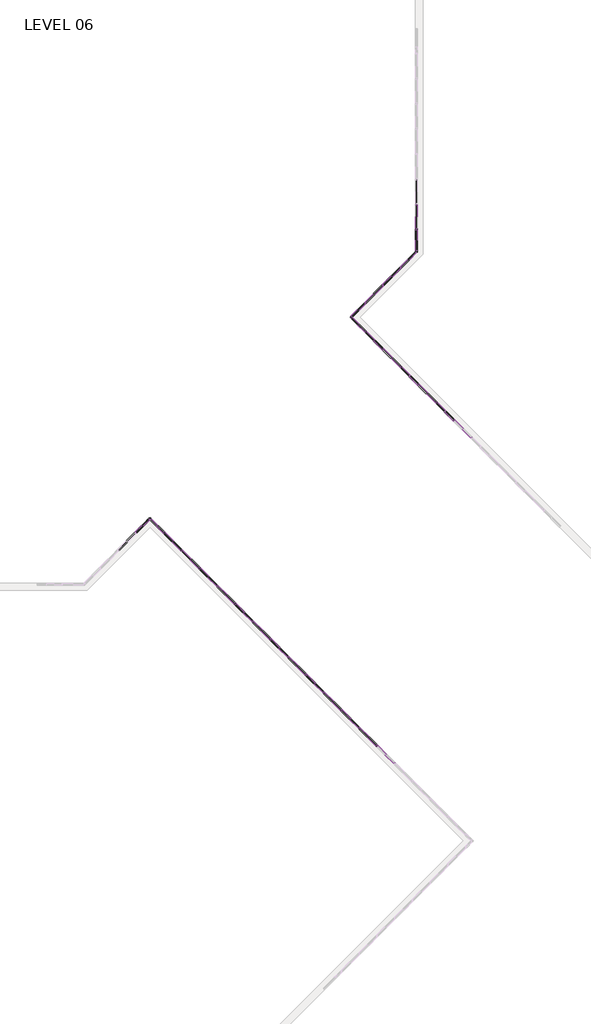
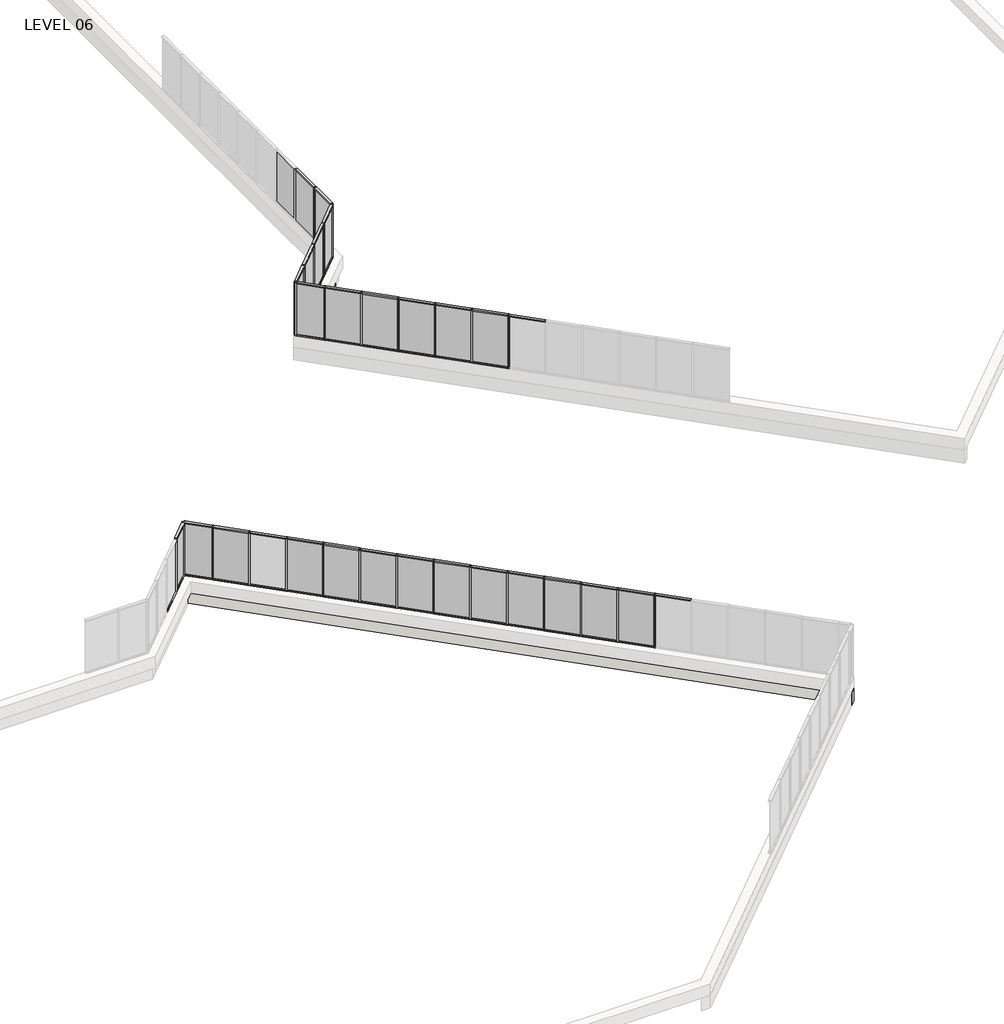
# One storey, part 9 of 17: 84 members, 26 plates, 2 walls.
"""IFC4 building model written with IfcOpenShell, lengths in millimetres."""

from ifc_helpers import new_model, si_unit, frame, origin, place, context, project, spatial, polyline, outline, extrude, faceted_brep, transform, mapped, element, save
from components import member_5247f267, member_e44af9ab, member_800970d4, member_910c08c9, member_dd9f6d43, member_45eb7f2e, plate_67294edd, plate_88df3e37, plate_c3b8b83d, plate_6ecefdb5, plate_9c66726c, plate_129ab9d0

model = new_model("IFC4")

# Units and contexts
model_context = context("Model", 3, world=origin())
ifc_project = project(units=[si_unit("LENGTHUNIT", "METRE", prefix="MILLI")], contexts=[model_context])

# Site, building, storey
site = spatial("IfcSite", under=ifc_project)
building = spatial("IfcBuilding", under=site)
storey = spatial("IfcBuildingStorey", under=building, Name="LEVEL 06", Elevation=19596.1)

# Members
placement = place(None, origin())
member_shape = member_5247f267(model_context)
element("IfcMember", 1, ObjectType="Rectangular Mullion : 2\" x 4.5\" rectangular", at=placement, inside=storey, context=model_context, shape_type="MappedRepresentation", body=[
    mapped(member_shape, transform((58839.186821, 16282.6021867, 19596.1), x_axis=(0.0, 0.0, -1.0), y_axis=(0.707106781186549, 0.7071067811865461, 0.0), z_axis=(0.707106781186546, -0.7071067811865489, 0.0))),
])
element("IfcMember", 2, ObjectType="Rectangular Mullion : 2\" x 4.5\" rectangular", at=placement, inside=storey, context=model_context, shape_type="MappedRepresentation", body=[
    mapped(member_shape, transform((57761.5560865, 17360.2329212, 19596.1), x_axis=(0.0, 0.0, -1.0), y_axis=(0.707106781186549, 0.7071067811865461, 0.0), z_axis=(0.7071067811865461, -0.707106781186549, 0.0))),
])
element("IfcMember", 3, ObjectType="Rectangular Mullion : 2\" x 4.5\" rectangular", at=placement, inside=storey, context=model_context, shape_type="MappedRepresentation", body=[
    mapped(member_shape, transform((56683.925352, 18437.8636558, 19596.1), x_axis=(0.0, 0.0, -1.0), y_axis=(0.707106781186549, 0.7071067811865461, 0.0), z_axis=(0.707106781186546, -0.7071067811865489, 0.0))),
])
element("IfcMember", 4, ObjectType="Rectangular Mullion : 2\" x 4.5\" rectangular", at=placement, inside=storey, context=model_context, shape_type="MappedRepresentation", body=[
    mapped(member_shape, transform((53451.3904937, 21670.3985141, 19596.1), x_axis=(0.0, 0.0, -1.0), y_axis=(0.7071067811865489, 0.7071067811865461, 0.0), z_axis=(0.7071067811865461, -0.7071067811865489, 0.0))),
])
element("IfcMember", 5, ObjectType="Rectangular Mullion : 2\" x 4.5\" rectangular", at=placement, inside=storey, context=model_context, shape_type="MappedRepresentation", body=[
    mapped(member_shape, transform((52373.7597592, 22748.0292486, 19596.1), x_axis=(0.0, 0.0, -1.0), y_axis=(0.7071067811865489, 0.7071067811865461, 0.0), z_axis=(0.7071067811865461, -0.7071067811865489, 0.0))),
])
element("IfcMember", 6, ObjectType="Rectangular Mullion : 2\" x 4.5\" rectangular", at=placement, inside=storey, context=model_context, shape_type="MappedRepresentation", body=[
    mapped(member_shape, transform((51296.1290246, 23825.6599831, 19596.1), x_axis=(0.0, 0.0, -1.0), y_axis=(0.707106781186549, 0.7071067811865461, 0.0), z_axis=(0.707106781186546, -0.7071067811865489, 0.0))),
])
element("IfcMember", 7, ObjectType="Rectangular Mullion : 2\" x 4.5\" rectangular", at=placement, inside=storey, context=model_context, shape_type="MappedRepresentation", body=[
    mapped(member_shape, transform((50218.4982901, 24903.2907176, 19596.1), x_axis=(0.0, 0.0, -1.0), y_axis=(0.707106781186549, 0.7071067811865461, 0.0), z_axis=(0.707106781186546, -0.7071067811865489, 0.0))),
])
element("IfcMember", 8, ObjectType="Rectangular Mullion : 2\" x 4.5\" rectangular", at=placement, inside=storey, context=model_context, shape_type="MappedRepresentation", body=[
    mapped(member_shape, transform((49140.8675556, 25980.9214522, 19596.1), x_axis=(0.0, 0.0, -1.0), y_axis=(0.707106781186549, 0.7071067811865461, 0.0), z_axis=(0.7071067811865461, -0.707106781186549, 0.0))),
])
element("IfcMember", 9, ObjectType="Rectangular Mullion : 2\" x 4.5\" rectangular", at=placement, inside=storey, context=model_context, shape_type="MappedRepresentation", body=[
    mapped(member_shape, transform((48063.236821, 27058.5521867, 19596.1), x_axis=(0.0, 0.0, -1.0), y_axis=(0.7071067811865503, 0.7071067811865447, 0.0), z_axis=(0.7071067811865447, -0.7071067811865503, 0.0))),
])
element("IfcMember", 10, ObjectType="Rectangular Mullion : 2\" x 4.5\" rectangular", at=placement, inside=storey, context=model_context, shape_type="MappedRepresentation", body=[
    mapped(member_shape, transform((46985.6060865, 28136.1829212, 19596.1), x_axis=(0.0, 0.0, -1.0), y_axis=(0.7071067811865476, 0.7071067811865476, 0.0), z_axis=(0.7071067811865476, -0.7071067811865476, 0.0))),
])
element("IfcMember", 11, ObjectType="Rectangular Mullion : 2\" x 4.5\" rectangular", at=placement, inside=storey, context=model_context, shape_type="MappedRepresentation", body=[
    mapped(member_shape, transform((44188.0075145, 29177.8965222, 19596.1), x_axis=(0.0, 0.0, -1.0), y_axis=(-0.7071067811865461, 0.7071067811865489, 0.0), z_axis=(0.7071067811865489, 0.7071067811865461, 0.0))),
])
element("IfcMember", 12, ObjectType="Rectangular Mullion : 2\" x 4.5\" rectangular", at=placement, inside=storey, context=model_context, shape_type="MappedRepresentation", body=[
    mapped(member_shape, transform((58875.1078455, 16246.6811622, 22186.9), x_axis=(0.0, 0.0, 1.0), y_axis=(0.707106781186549, 0.7071067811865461, 0.0), z_axis=(-0.707106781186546, 0.7071067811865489, 0.0))),
])
element("IfcMember", 13, ObjectType="Rectangular Mullion : 2\" x 4.5\" rectangular", at=placement, inside=storey, context=model_context, shape_type="MappedRepresentation", body=[
    mapped(member_shape, transform((57797.477111, 17324.3118967, 22186.9), x_axis=(0.0, 0.0, 1.0), y_axis=(0.707106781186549, 0.7071067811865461, 0.0), z_axis=(-0.707106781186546, 0.7071067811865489, 0.0))),
])
element("IfcMember", 14, ObjectType="Rectangular Mullion : 2\" x 4.5\" rectangular", at=placement, inside=storey, context=model_context, shape_type="MappedRepresentation", body=[
    mapped(member_shape, transform((56719.8463765, 18401.9426313, 22186.9), x_axis=(0.0, 0.0, 1.0), y_axis=(0.7071067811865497, 0.7071067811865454, 0.0), z_axis=(-0.7071067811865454, 0.7071067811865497, 0.0))),
])
element("IfcMember", 15, ObjectType="Rectangular Mullion : 2\" x 4.5\" rectangular", at=placement, inside=storey, context=model_context, shape_type="MappedRepresentation", body=[
    mapped(member_shape, transform((55642.2156419, 19479.5733658, 22186.9), x_axis=(0.0, 0.0, 1.0), y_axis=(0.7071067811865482, 0.7071067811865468, 0.0), z_axis=(-0.7071067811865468, 0.7071067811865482, 0.0))),
])
element("IfcMember", 16, ObjectType="Rectangular Mullion : 2\" x 4.5\" rectangular", at=placement, inside=storey, context=model_context, shape_type="MappedRepresentation", body=[
    mapped(member_shape, transform((52409.6807836, 22712.1082241, 22186.9), x_axis=(0.0, 0.0, 1.0), y_axis=(0.7071067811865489, 0.7071067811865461, 0.0), z_axis=(-0.7071067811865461, 0.7071067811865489, 0.0))),
])
element("IfcMember", 17, ObjectType="Rectangular Mullion : 2\" x 4.5\" rectangular", at=placement, inside=storey, context=model_context, shape_type="MappedRepresentation", body=[
    mapped(member_shape, transform((51332.0500491, 23789.7389586, 22186.9), x_axis=(0.0, 0.0, 1.0), y_axis=(0.7071067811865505, 0.7071067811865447, 0.0), z_axis=(-0.7071067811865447, 0.7071067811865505, 0.0))),
])
element("IfcMember", 18, ObjectType="Rectangular Mullion : 2\" x 4.5\" rectangular", at=placement, inside=storey, context=model_context, shape_type="MappedRepresentation", body=[
    mapped(member_shape, transform((50254.4193146, 24867.3696932, 22186.9), x_axis=(0.0, 0.0, 1.0), y_axis=(0.7071067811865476, 0.7071067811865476, 0.0), z_axis=(-0.7071067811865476, 0.7071067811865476, 0.0))),
])
element("IfcMember", 19, ObjectType="Rectangular Mullion : 2\" x 4.5\" rectangular", at=placement, inside=storey, context=model_context, shape_type="MappedRepresentation", body=[
    mapped(member_shape, transform((49176.7885801, 25945.0004277, 22186.9), x_axis=(0.0, 0.0, 1.0), y_axis=(0.707106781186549, 0.7071067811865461, 0.0), z_axis=(-0.707106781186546, 0.7071067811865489, 0.0))),
])
element("IfcMember", 20, ObjectType="Rectangular Mullion : 2\" x 4.5\" rectangular", at=placement, inside=storey, context=model_context, shape_type="MappedRepresentation", body=[
    mapped(member_shape, transform((48099.1578455, 27022.6311622, 22186.9), x_axis=(0.0, 0.0, 1.0), y_axis=(0.707106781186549, 0.7071067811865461, 0.0), z_axis=(-0.7071067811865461, 0.707106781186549, 0.0))),
])
element("IfcMember", 21, ObjectType="Rectangular Mullion : 2\" x 4.5\" rectangular", at=placement, inside=storey, context=model_context, shape_type="MappedRepresentation", body=[
    mapped(member_shape, transform((47021.527111, 28100.2618967, 22186.9), x_axis=(0.0, 0.0, 1.0), y_axis=(0.7071067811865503, 0.7071067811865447, 0.0), z_axis=(-0.7071067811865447, 0.7071067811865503, 0.0))),
])
element("IfcMember", 22, ObjectType="Rectangular Mullion : 2\" x 4.5\" rectangular", at=placement, inside=storey, context=model_context, shape_type="MappedRepresentation", body=[
    mapped(member_shape, transform((45943.8963765, 29177.8926313, 22186.9), x_axis=(0.0, 0.0, 1.0), y_axis=(0.7071067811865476, 0.7071067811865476, 0.0), z_axis=(-0.7071067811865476, 0.7071067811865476, 0.0))),
])
member_2_shape = member_e44af9ab(model_context)
element("IfcMember", 23, ObjectType="Rectangular Mullion : 2\" x 4.5\" rectangular", at=placement, inside=storey, context=model_context, shape_type="MappedRepresentation", body=[
    mapped(member_2_shape, transform((58857.1473333, 16264.6416745, 19596.1), x_axis=(-0.7071067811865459, 0.7071067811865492, 0.0), y_axis=(0.7071067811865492, 0.7071067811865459, 0.0), z_axis=(0.0, 0.0, -1.0))),
])
element("IfcMember", 24, ObjectType="Rectangular Mullion : 2\" x 4.5\" rectangular", at=placement, inside=storey, context=model_context, shape_type="MappedRepresentation", body=[
    mapped(member_2_shape, transform((57779.5165988, 17342.272409, 19596.1), x_axis=(-0.7071067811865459, 0.7071067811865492, 0.0), y_axis=(0.7071067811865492, 0.7071067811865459, 0.0), z_axis=(0.0, 0.0, -1.0))),
])
element("IfcMember", 25, ObjectType="Rectangular Mullion : 2\" x 4.5\" rectangular", at=placement, inside=storey, context=model_context, shape_type="MappedRepresentation", body=[
    mapped(member_2_shape, transform((56701.8858642, 18419.9031435, 19596.1), x_axis=(-0.7071067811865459, 0.7071067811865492, 0.0), y_axis=(0.7071067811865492, 0.7071067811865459, 0.0), z_axis=(0.0, 0.0, -1.0))),
])
element("IfcMember", 26, ObjectType="Rectangular Mullion : 2\" x 4.5\" rectangular", at=placement, inside=storey, context=model_context, shape_type="MappedRepresentation", body=[
    mapped(member_2_shape, transform((55624.2551297, 19497.533878, 19596.1), x_axis=(-0.7071067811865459, 0.7071067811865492, 0.0), y_axis=(0.7071067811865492, 0.7071067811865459, 0.0), z_axis=(0.0, 0.0, -1.0))),
])
element("IfcMember", 27, ObjectType="Rectangular Mullion : 2\" x 4.5\" rectangular", at=placement, inside=storey, context=model_context, shape_type="MappedRepresentation", body=[
    mapped(member_2_shape, transform((53469.3510059, 21652.4380018, 19596.1), x_axis=(-0.7071067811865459, 0.7071067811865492, 0.0), y_axis=(0.7071067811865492, 0.7071067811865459, 0.0), z_axis=(0.0, 0.0, -1.0))),
])
element("IfcMember", 28, ObjectType="Rectangular Mullion : 2\" x 4.5\" rectangular", at=placement, inside=storey, context=model_context, shape_type="MappedRepresentation", body=[
    mapped(member_2_shape, transform((52391.7202714, 22730.0687363, 19596.1), x_axis=(-0.7071067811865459, 0.7071067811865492, 0.0), y_axis=(0.7071067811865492, 0.7071067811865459, 0.0), z_axis=(0.0, 0.0, -1.0))),
])
element("IfcMember", 29, ObjectType="Rectangular Mullion : 2\" x 4.5\" rectangular", at=placement, inside=storey, context=model_context, shape_type="MappedRepresentation", body=[
    mapped(member_2_shape, transform((51314.0895369, 23807.6994709, 19596.1), x_axis=(-0.7071067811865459, 0.7071067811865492, 0.0), y_axis=(0.7071067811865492, 0.7071067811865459, 0.0), z_axis=(0.0, 0.0, -1.0))),
])
element("IfcMember", 30, ObjectType="Rectangular Mullion : 2\" x 4.5\" rectangular", at=placement, inside=storey, context=model_context, shape_type="MappedRepresentation", body=[
    mapped(member_2_shape, transform((54546.8030678, 20574.9859399, 19596.1), x_axis=(-0.7071067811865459, 0.7071067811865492, 0.0), y_axis=(0.7071067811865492, 0.7071067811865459, 0.0), z_axis=(0.0, 0.0, -1.0))),
])
element("IfcMember", 31, ObjectType="Rectangular Mullion : 2\" x 4.5\" rectangular", at=placement, inside=storey, context=model_context, shape_type="MappedRepresentation", body=[
    mapped(member_2_shape, transform((50236.4588023, 24885.3302054, 19596.1), x_axis=(-0.7071067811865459, 0.7071067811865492, 0.0), y_axis=(0.7071067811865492, 0.7071067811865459, 0.0), z_axis=(0.0, 0.0, -1.0))),
])
element("IfcMember", 32, ObjectType="Rectangular Mullion : 2\" x 4.5\" rectangular", at=placement, inside=storey, context=model_context, shape_type="MappedRepresentation", body=[
    mapped(member_2_shape, transform((49158.8280678, 25962.9609399, 19596.1), x_axis=(-0.7071067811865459, 0.7071067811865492, 0.0), y_axis=(0.7071067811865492, 0.7071067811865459, 0.0), z_axis=(0.0, 0.0, -1.0))),
])
element("IfcMember", 33, ObjectType="Rectangular Mullion : 2\" x 4.5\" rectangular", at=placement, inside=storey, context=model_context, shape_type="MappedRepresentation", body=[
    mapped(member_2_shape, transform((48081.1973333, 27040.5916745, 19596.1), x_axis=(-0.7071067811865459, 0.7071067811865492, 0.0), y_axis=(0.7071067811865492, 0.7071067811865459, 0.0), z_axis=(0.0, 0.0, -1.0))),
])
element("IfcMember", 34, ObjectType="Rectangular Mullion : 2\" x 4.5\" rectangular", at=placement, inside=storey, context=model_context, shape_type="MappedRepresentation", body=[
    mapped(member_2_shape, transform((47003.5665988, 28118.222409, 19596.1), x_axis=(-0.7071067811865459, 0.7071067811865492, 0.0), y_axis=(0.7071067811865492, 0.7071067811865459, 0.0), z_axis=(0.0, 0.0, -1.0))),
])
element("IfcMember", 35, ObjectType="Rectangular Mullion : 2\" x 4.5\" rectangular", at=placement, inside=storey, context=model_context, shape_type="MappedRepresentation", body=[
    mapped(member_2_shape, transform((45925.9358642, 29195.8531435, 19596.1), x_axis=(-0.7071067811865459, 0.7071067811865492, 0.0), y_axis=(0.7071067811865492, 0.7071067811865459, 0.0), z_axis=(0.0, 0.0, -1.0))),
])
element("IfcMember", 36, ObjectType="Rectangular Mullion : 2\" x 4.5\" rectangular", at=placement, inside=storey, context=model_context, shape_type="MappedRepresentation", body=[
    mapped(member_2_shape, transform((44205.9680267, 29195.8570344, 19596.1), x_axis=(-0.7071067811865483, -0.7071067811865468, 0.0), y_axis=(-0.7071067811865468, 0.7071067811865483, 0.0), z_axis=(0.0, 0.0, -1.0))),
])
member_3_shape = member_800970d4(model_context)
element("IfcMember", 37, ObjectType="Rectangular Mullion : 2\" x 4.5\" rectangular", at=placement, inside=storey, context=model_context, shape_type="MappedRepresentation", body=[
    mapped(member_3_shape, transform((45065.95, 30055.8390077, 19596.1), x_axis=(-0.7071067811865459, 0.7071067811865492, 0.0), y_axis=(0.7071067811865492, 0.7071067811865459, 0.0), z_axis=(0.0, 0.0, -1.0))),
])
element("IfcMember", 38, ObjectType="Rectangular Mullion : 2\" x 4.5\" rectangular", at=placement, inside=storey, context=model_context, shape_type="MappedRepresentation", body=[
    mapped(member_3_shape, transform((45065.95, 30055.8390077, 22186.9), x_axis=(0.7071067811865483, 0.7071067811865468, 0.0), y_axis=(-0.7071067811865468, 0.7071067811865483, 0.0), z_axis=(0.0, 0.0, 1.0))),
])
member_4_shape = member_910c08c9(model_context)
element("IfcMember", 39, ObjectType="Rectangular Mullion : 2\" x 4.5\" rectangular", at=placement, inside=storey, context=model_context, shape_type="MappedRepresentation", body=[
    mapped(member_4_shape, transform((53487.3115182, 21634.4774896, 22186.9), x_axis=(0.0, 0.0, 1.0), y_axis=(0.707106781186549, 0.7071067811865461, 0.0), z_axis=(-0.7071067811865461, 0.707106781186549, 0.0))),
])
element("IfcMember", 40, ObjectType="Rectangular Mullion : 2\" x 4.5\" rectangular", at=placement, inside=storey, context=model_context, shape_type="MappedRepresentation", body=[
    mapped(member_4_shape, transform((54564.7635801, 20557.0254277, 22186.9), x_axis=(0.0, 0.0, 1.0), y_axis=(0.7071067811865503, 0.7071067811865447, 0.0), z_axis=(-0.7071067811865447, 0.7071067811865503, 0.0))),
])
element("IfcMember", 41, ObjectType="Rectangular Mullion : 2\" x 4.5\" rectangular", at=placement, inside=storey, context=model_context, shape_type="MappedRepresentation", body=[
    mapped(member_4_shape, transform((55606.2946175, 19515.4943903, 19596.1), x_axis=(0.0, 0.0, -1.0), y_axis=(0.7071067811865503, 0.7071067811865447, 0.0), z_axis=(0.7071067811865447, -0.7071067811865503, 0.0))),
])
element("IfcMember", 42, ObjectType="Rectangular Mullion : 2\" x 4.5\" rectangular", at=placement, inside=storey, context=model_context, shape_type="MappedRepresentation", body=[
    mapped(member_4_shape, transform((54528.8425556, 20592.9464522, 19596.1), x_axis=(0.0, 0.0, -1.0), y_axis=(0.707106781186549, 0.7071067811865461, 0.0), z_axis=(0.7071067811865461, -0.707106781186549, 0.0))),
])
member_5_shape = member_dd9f6d43(model_context)
element("IfcMember", 43, ObjectType="Rectangular Mullion : 2\" x 4.5\" rectangular", at=placement, inside=storey, context=model_context, shape_type="MappedRepresentation", body=[
    mapped(member_5_shape, transform((45101.8710245, 30019.9179833, 22186.9), x_axis=(0.0, 0.0, 1.0), y_axis=(0.7071067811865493, 0.7071067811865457, 0.0), z_axis=(-0.7071067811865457, 0.7071067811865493, 0.0))),
])
element("IfcMember", 44, ObjectType="Rectangular Mullion : 2\" x 4.5\" rectangular", at=placement, inside=storey, context=model_context, shape_type="MappedRepresentation", body=[
    mapped(member_5_shape, transform((44223.9285389, 29213.8175467, 22186.9), x_axis=(0.0, 0.0, 1.0), y_axis=(-0.7071067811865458, 0.7071067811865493, 0.0), z_axis=(-0.7071067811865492, -0.7071067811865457, 0.0))),
])
element("IfcMember", 45, ObjectType="Rectangular Mullion : 2\" x 4.5\" rectangular", at=placement, inside=storey, context=model_context, shape_type="MappedRepresentation", body=[
    mapped(member_5_shape, transform((45907.975352, 29213.8136558, 19596.1), x_axis=(0.0, 0.0, -1.0), y_axis=(0.7071067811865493, 0.7071067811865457, 0.0), z_axis=(0.7071067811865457, -0.7071067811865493, 0.0))),
])
element("IfcMember", 46, ObjectType="Rectangular Mullion : 2\" x 4.5\" rectangular", at=placement, inside=storey, context=model_context, shape_type="MappedRepresentation", body=[
    mapped(member_5_shape, transform((45030.0289755, 30019.9179833, 19596.1), x_axis=(0.0, 0.0, -1.0), y_axis=(-0.7071067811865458, 0.7071067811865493, 0.0), z_axis=(0.7071067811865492, 0.7071067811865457, 0.0))),
])
element("IfcMember", 47, ObjectType="Rectangular Mullion : 2\" x 4.5\" rectangular", at=placement, inside=storey, context=model_context, shape_type="MappedRepresentation", body=[
    mapped(member_shape, transform((63554.1786299, 36011.8675394, 22186.9), x_axis=(0.0, 0.0, 1.0), y_axis=(0.7071067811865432, 0.7071067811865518, 0.0), z_axis=(-0.7071067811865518, 0.7071067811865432, 0.0))),
])
element("IfcMember", 48, ObjectType="Rectangular Mullion : 2\" x 4.5\" rectangular", at=placement, inside=storey, context=model_context, shape_type="MappedRepresentation", body=[
    mapped(member_shape, transform((62476.5478954, 37089.4982739, 22186.9), x_axis=(0.0, 0.0, 1.0), y_axis=(0.7071067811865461, 0.7071067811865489, 0.0), z_axis=(-0.7071067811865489, 0.7071067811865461, 0.0))),
])
element("IfcMember", 49, ObjectType="Rectangular Mullion : 2\" x 4.5\" rectangular", at=placement, inside=storey, context=model_context, shape_type="MappedRepresentation", body=[
    mapped(member_shape, transform((61398.9171608, 38167.1290085, 22186.9), x_axis=(0.0, 0.0, 1.0), y_axis=(0.7071067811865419, 0.7071067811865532, 0.0), z_axis=(-0.7071067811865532, 0.7071067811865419, 0.0))),
])
element("IfcMember", 50, ObjectType="Rectangular Mullion : 2\" x 4.5\" rectangular", at=placement, inside=storey, context=model_context, shape_type="MappedRepresentation", body=[
    mapped(member_shape, transform((60321.2864263, 39244.759743, 22186.9), x_axis=(0.0, 0.0, 1.0), y_axis=(0.7071067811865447, 0.7071067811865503, 0.0), z_axis=(-0.7071067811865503, 0.7071067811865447, 0.0))),
])
element("IfcMember", 51, ObjectType="Rectangular Mullion : 2\" x 4.5\" rectangular", at=placement, inside=storey, context=model_context, shape_type="MappedRepresentation", body=[
    mapped(member_shape, transform((59243.6556918, 40322.3904775, 22186.9), x_axis=(0.0, 0.0, 1.0), y_axis=(0.7071067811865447, 0.7071067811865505, 0.0), z_axis=(-0.7071067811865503, 0.7071067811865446, 0.0))),
])
element("IfcMember", 52, ObjectType="Rectangular Mullion : 2\" x 4.5\" rectangular", at=placement, inside=storey, context=model_context, shape_type="MappedRepresentation", body=[
    mapped(member_shape, transform((58166.0249572, 41400.021212, 22186.9), x_axis=(0.0, 0.0, 1.0), y_axis=(0.7071067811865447, 0.7071067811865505, 0.0), z_axis=(-0.7071067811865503, 0.7071067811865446, 0.0))),
])
element("IfcMember", 53, ObjectType="Rectangular Mullion : 2\" x 4.5\" rectangular", at=placement, inside=storey, context=model_context, shape_type="MappedRepresentation", body=[
    mapped(member_shape, transform((60285.3615109, 45275.2505186, 22186.9), x_axis=(0.0, 0.0, 1.0), y_axis=(0.7071067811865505, -0.7071067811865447, 0.0), z_axis=(0.7071067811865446, 0.7071067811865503, 0.0))),
])
element("IfcMember", 54, ObjectType="Rectangular Mullion : 2\" x 4.5\" rectangular", at=placement, inside=storey, context=model_context, shape_type="MappedRepresentation", body=[
    mapped(member_shape, transform((59207.7307764, 44197.6197841, 22186.9), x_axis=(0.0, 0.0, 1.0), y_axis=(0.7071067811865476, -0.7071067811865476, 0.0), z_axis=(0.7071067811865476, 0.7071067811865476, 0.0))),
])
element("IfcMember", 55, ObjectType="Rectangular Mullion : 2\" x 4.5\" rectangular", at=placement, inside=storey, context=model_context, shape_type="MappedRepresentation", body=[
    mapped(member_shape, transform((61263.7847164, 47637.3675885, 22186.9), x_axis=(0.0, 0.0, 1.0), y_axis=(-1.0, 0.0, 0.0), z_axis=(0.0, -1.0, 0.0))),
])
element("IfcMember", 56, ObjectType="Rectangular Mullion : 2\" x 4.5\" rectangular", at=placement, inside=storey, context=model_context, shape_type="MappedRepresentation", body=[
    mapped(member_shape, transform((63518.2576054, 36047.7885639, 19596.1), x_axis=(0.0, 0.0, -1.0), y_axis=(0.7071067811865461, 0.7071067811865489, 0.0), z_axis=(0.7071067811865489, -0.7071067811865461, 0.0))),
])
element("IfcMember", 57, ObjectType="Rectangular Mullion : 2\" x 4.5\" rectangular", at=placement, inside=storey, context=model_context, shape_type="MappedRepresentation", body=[
    mapped(member_shape, transform((62440.6268709, 37125.4192984, 19596.1), x_axis=(0.0, 0.0, -1.0), y_axis=(0.7071067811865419, 0.7071067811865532, 0.0), z_axis=(0.7071067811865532, -0.7071067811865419, 0.0))),
])
element("IfcMember", 58, ObjectType="Rectangular Mullion : 2\" x 4.5\" rectangular", at=placement, inside=storey, context=model_context, shape_type="MappedRepresentation", body=[
    mapped(member_shape, transform((61362.9961363, 38203.0500329, 19596.1), x_axis=(0.0, 0.0, -1.0), y_axis=(0.7071067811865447, 0.7071067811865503, 0.0), z_axis=(0.7071067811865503, -0.7071067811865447, 0.0))),
])
element("IfcMember", 59, ObjectType="Rectangular Mullion : 2\" x 4.5\" rectangular", at=placement, inside=storey, context=model_context, shape_type="MappedRepresentation", body=[
    mapped(member_shape, transform((60285.3654018, 39280.6807675, 19596.1), x_axis=(0.0, 0.0, -1.0), y_axis=(0.7071067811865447, 0.7071067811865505, 0.0), z_axis=(0.7071067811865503, -0.7071067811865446, 0.0))),
])
element("IfcMember", 60, ObjectType="Rectangular Mullion : 2\" x 4.5\" rectangular", at=placement, inside=storey, context=model_context, shape_type="MappedRepresentation", body=[
    mapped(member_shape, transform((59207.7346673, 40358.311502, 19596.1), x_axis=(0.0, 0.0, -1.0), y_axis=(0.7071067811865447, 0.7071067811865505, 0.0), z_axis=(0.7071067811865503, -0.7071067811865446, 0.0))),
])
element("IfcMember", 61, ObjectType="Rectangular Mullion : 2\" x 4.5\" rectangular", at=placement, inside=storey, context=model_context, shape_type="MappedRepresentation", body=[
    mapped(member_shape, transform((58166.0210663, 43155.9100741, 19596.1), x_axis=(0.0, 0.0, -1.0), y_axis=(0.7071067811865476, -0.7071067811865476, 0.0), z_axis=(-0.7071067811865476, -0.7071067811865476, 0.0))),
])
element("IfcMember", 62, ObjectType="Rectangular Mullion : 2\" x 4.5\" rectangular", at=placement, inside=storey, context=model_context, shape_type="MappedRepresentation", body=[
    mapped(member_shape, transform((59243.6518008, 44233.5408086, 19596.1), x_axis=(0.0, 0.0, -1.0), y_axis=(0.7071067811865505, -0.7071067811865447, 0.0), z_axis=(-0.7071067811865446, -0.7071067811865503, 0.0))),
])
element("IfcMember", 63, ObjectType="Rectangular Mullion : 2\" x 4.5\" rectangular", at=placement, inside=storey, context=model_context, shape_type="MappedRepresentation", body=[
    mapped(member_2_shape, transform((63536.2181176, 36029.8280517, 19596.1), x_axis=(-0.7071067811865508, 0.7071067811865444, 0.0), y_axis=(0.7071067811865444, 0.7071067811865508, 0.0), z_axis=(0.0, 0.0, -1.0))),
])
element("IfcMember", 64, ObjectType="Rectangular Mullion : 2\" x 4.5\" rectangular", at=placement, inside=storey, context=model_context, shape_type="MappedRepresentation", body=[
    mapped(member_2_shape, transform((62458.5873831, 37107.4587862, 19596.1), x_axis=(-0.7071067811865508, 0.7071067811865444, 0.0), y_axis=(0.7071067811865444, 0.7071067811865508, 0.0), z_axis=(0.0, 0.0, -1.0))),
])
element("IfcMember", 65, ObjectType="Rectangular Mullion : 2\" x 4.5\" rectangular", at=placement, inside=storey, context=model_context, shape_type="MappedRepresentation", body=[
    mapped(member_2_shape, transform((61380.9566486, 38185.0895207, 19596.1), x_axis=(-0.7071067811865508, 0.7071067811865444, 0.0), y_axis=(0.7071067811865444, 0.7071067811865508, 0.0), z_axis=(0.0, 0.0, -1.0))),
])
element("IfcMember", 66, ObjectType="Rectangular Mullion : 2\" x 4.5\" rectangular", at=placement, inside=storey, context=model_context, shape_type="MappedRepresentation", body=[
    mapped(member_2_shape, transform((60303.3259141, 39262.7202552, 19596.1), x_axis=(-0.7071067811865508, 0.7071067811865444, 0.0), y_axis=(0.7071067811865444, 0.7071067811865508, 0.0), z_axis=(0.0, 0.0, -1.0))),
])
element("IfcMember", 67, ObjectType="Rectangular Mullion : 2\" x 4.5\" rectangular", at=placement, inside=storey, context=model_context, shape_type="MappedRepresentation", body=[
    mapped(member_2_shape, transform((59225.6951795, 40340.3509898, 19596.1), x_axis=(-0.7071067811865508, 0.7071067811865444, 0.0), y_axis=(0.7071067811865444, 0.7071067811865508, 0.0), z_axis=(0.0, 0.0, -1.0))),
])
element("IfcMember", 68, ObjectType="Rectangular Mullion : 2\" x 4.5\" rectangular", at=placement, inside=storey, context=model_context, shape_type="MappedRepresentation", body=[
    mapped(member_2_shape, transform((58148.064445, 41417.9817243, 19596.1), x_axis=(-0.7071067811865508, 0.7071067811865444, 0.0), y_axis=(0.7071067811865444, 0.7071067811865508, 0.0), z_axis=(0.0, 0.0, -1.0))),
])
element("IfcMember", 69, ObjectType="Rectangular Mullion : 2\" x 4.5\" rectangular", at=placement, inside=storey, context=model_context, shape_type="MappedRepresentation", body=[
    mapped(member_2_shape, transform((58148.0605541, 43137.9495618, 19596.1), x_axis=(0.7071067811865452, 0.7071067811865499, 0.0), y_axis=(0.7071067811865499, -0.7071067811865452, 0.0), z_axis=(0.0, 0.0, -1.0))),
])
element("IfcMember", 70, ObjectType="Rectangular Mullion : 2\" x 4.5\" rectangular", at=placement, inside=storey, context=model_context, shape_type="MappedRepresentation", body=[
    mapped(member_2_shape, transform((60303.3220231, 45293.2110309, 19596.1), x_axis=(0.7071067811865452, 0.7071067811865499, 0.0), y_axis=(0.7071067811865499, -0.7071067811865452, 0.0), z_axis=(0.0, 0.0, -1.0))),
])
element("IfcMember", 71, ObjectType="Rectangular Mullion : 2\" x 4.5\" rectangular", at=placement, inside=storey, context=model_context, shape_type="MappedRepresentation", body=[
    mapped(member_2_shape, transform((59225.6912886, 44215.5802963, 19596.1), x_axis=(0.7071067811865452, 0.7071067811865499, 0.0), y_axis=(0.7071067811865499, -0.7071067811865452, 0.0), z_axis=(0.0, 0.0, -1.0))),
])
element("IfcMember", 72, ObjectType="Rectangular Mullion : 2\" x 4.5\" rectangular", at=placement, inside=storey, context=model_context, shape_type="MappedRepresentation", body=[
    mapped(member_2_shape, transform((61263.7847164, 47611.9675885, 19596.1), x_axis=(0.0, -1.0, 0.0), y_axis=(-1.0, 0.0, 0.0), z_axis=(0.0, 0.0, -1.0))),
])
element("IfcMember", 73, ObjectType="Rectangular Mullion : 2\" x 4.5\" rectangular", at=placement, inside=storey, context=model_context, shape_type="MappedRepresentation", body=[
    mapped(member_3_shape, transform((57288.0785808, 42277.9675885, 19596.1), x_axis=(-0.7071067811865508, 0.7071067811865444, 0.0), y_axis=(0.7071067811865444, 0.7071067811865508, 0.0), z_axis=(0.0, 0.0, -1.0))),
])
element("IfcMember", 74, ObjectType="Rectangular Mullion : 2\" x 4.5\" rectangular", at=placement, inside=storey, context=model_context, shape_type="MappedRepresentation", body=[
    mapped(member_3_shape, transform((61263.7847164, 46253.6737241, 19596.1), x_axis=(0.7071067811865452, 0.7071067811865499, 0.0), y_axis=(0.7071067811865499, -0.7071067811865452, 0.0), z_axis=(0.0, 0.0, -1.0))),
])
element("IfcMember", 75, ObjectType="Rectangular Mullion : 2\" x 4.5\" rectangular", at=placement, inside=storey, context=model_context, shape_type="MappedRepresentation", body=[
    mapped(member_3_shape, transform((61263.7847164, 46253.6737241, 19596.1), x_axis=(0.0, -1.0, 0.0), y_axis=(-1.0, 0.0, 0.0), z_axis=(0.0, 0.0, -1.0))),
])
element("IfcMember", 76, ObjectType="Rectangular Mullion : 2\" x 4.5\" rectangular", at=placement, inside=storey, context=model_context, shape_type="MappedRepresentation", body=[
    mapped(member_3_shape, transform((57288.0785808, 42277.9675885, 22186.9), x_axis=(-0.7071067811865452, -0.7071067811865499, 0.0), y_axis=(0.7071067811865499, -0.7071067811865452, 0.0), z_axis=(0.0, 0.0, 1.0))),
])
member_6_shape = member_45eb7f2e(model_context)
element("IfcMember", 77, ObjectType="Rectangular Mullion : 2\" x 4.5\" rectangular", at=placement, inside=storey, context=model_context, shape_type="MappedRepresentation", body=[
    mapped(member_6_shape, transform((61227.8636919, 46217.7526997, 22186.9), x_axis=(0.0, 0.0, 1.0), y_axis=(0.7071067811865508, -0.7071067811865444, 0.0), z_axis=(0.7071067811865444, 0.7071067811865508, 0.0))),
])
element("IfcMember", 78, ObjectType="Rectangular Mullion : 2\" x 4.5\" rectangular", at=placement, inside=storey, context=model_context, shape_type="MappedRepresentation", body=[
    mapped(member_6_shape, transform((61263.7847164, 46304.4737241, 22186.9), x_axis=(0.0, 0.0, 1.0), y_axis=(-1.0, 0.0, 0.0), z_axis=(0.0, -1.0, 0.0))),
])
element("IfcMember", 79, ObjectType="Rectangular Mullion : 2\" x 4.5\" rectangular", at=placement, inside=storey, context=model_context, shape_type="MappedRepresentation", body=[
    mapped(member_6_shape, transform((60321.2825354, 45311.1715431, 19596.1), x_axis=(0.0, 0.0, -1.0), y_axis=(0.7071067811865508, -0.7071067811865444, 0.0), z_axis=(-0.7071067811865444, -0.7071067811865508, 0.0))),
])
element("IfcMember", 80, ObjectType="Rectangular Mullion : 2\" x 4.5\" rectangular", at=placement, inside=storey, context=model_context, shape_type="MappedRepresentation", body=[
    mapped(member_6_shape, transform((61263.7847164, 47586.5675885, 19596.1), x_axis=(0.0, 0.0, -1.0), y_axis=(-1.0, 0.0, 0.0), z_axis=(0.0, 1.0, 0.0))),
])
element("IfcMember", 81, ObjectType="Rectangular Mullion : 2\" x 4.5\" rectangular", at=placement, inside=storey, context=model_context, shape_type="MappedRepresentation", body=[
    mapped(member_5_shape, transform((57323.9996053, 42242.046564, 22186.9), x_axis=(0.0, 0.0, 1.0), y_axis=(0.707106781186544, 0.7071067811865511, 0.0), z_axis=(-0.707106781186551, 0.7071067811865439, 0.0))),
])
element("IfcMember", 82, ObjectType="Rectangular Mullion : 2\" x 4.5\" rectangular", at=placement, inside=storey, context=model_context, shape_type="MappedRepresentation", body=[
    mapped(member_5_shape, transform((58130.1000418, 43119.9890496, 22186.9), x_axis=(0.0, 0.0, 1.0), y_axis=(0.7071067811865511, -0.707106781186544, 0.0), z_axis=(0.707106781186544, 0.7071067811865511, 0.0))),
])
element("IfcMember", 83, ObjectType="Rectangular Mullion : 2\" x 4.5\" rectangular", at=placement, inside=storey, context=model_context, shape_type="MappedRepresentation", body=[
    mapped(member_5_shape, transform((58130.1039328, 41435.9422365, 19596.1), x_axis=(0.0, 0.0, -1.0), y_axis=(0.707106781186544, 0.7071067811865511, 0.0), z_axis=(0.707106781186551, -0.7071067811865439, 0.0))),
])
element("IfcMember", 84, ObjectType="Rectangular Mullion : 2\" x 4.5\" rectangular", at=placement, inside=storey, context=model_context, shape_type="MappedRepresentation", body=[
    mapped(member_5_shape, transform((57323.9996053, 42313.888613, 19596.1), x_axis=(0.0, 0.0, -1.0), y_axis=(0.7071067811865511, -0.707106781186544, 0.0), z_axis=(-0.707106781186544, -0.7071067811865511, 0.0))),
])

# Plates
plate_shape = plate_67294edd(model_context)
element("IfcPlate", 85, ObjectType="System Panel : 1/4\" Glass", at=placement, inside=storey, context=model_context, shape_type="MappedRepresentation", body=[
    mapped(plate_shape, transform((58318.331966, 16803.4570417, 19646.9), x_axis=(-0.7071067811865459, 0.7071067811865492, 0.0), y_axis=(-0.7071067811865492, -0.7071067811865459, 0.0), z_axis=(0.0, 0.0, 1.0))),
])
element("IfcPlate", 86, ObjectType="System Panel : 1/4\" Glass", at=placement, inside=storey, context=model_context, shape_type="MappedRepresentation", body=[
    mapped(plate_shape, transform((57240.7012315, 17881.0877763, 19646.9), x_axis=(-0.7071067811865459, 0.7071067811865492, 0.0), y_axis=(-0.7071067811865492, -0.7071067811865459, 0.0), z_axis=(0.0, 0.0, 1.0))),
])
element("IfcPlate", 87, ObjectType="System Panel : 1/4\" Glass", at=placement, inside=storey, context=model_context, shape_type="MappedRepresentation", body=[
    mapped(plate_shape, transform((56163.070497, 18958.7185108, 19646.9), x_axis=(-0.7071067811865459, 0.7071067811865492, 0.0), y_axis=(-0.7071067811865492, -0.7071067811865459, 0.0), z_axis=(0.0, 0.0, 1.0))),
])
element("IfcPlate", 88, ObjectType="System Panel : 1/4\" Glass", at=placement, inside=storey, context=model_context, shape_type="MappedRepresentation", body=[
    mapped(plate_shape, transform((52930.5356387, 22191.2533691, 19646.9), x_axis=(-0.7071067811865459, 0.7071067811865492, 0.0), y_axis=(-0.7071067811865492, -0.7071067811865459, 0.0), z_axis=(0.0, 0.0, 1.0))),
])
element("IfcPlate", 89, ObjectType="System Panel : 1/4\" Glass", at=placement, inside=storey, context=model_context, shape_type="MappedRepresentation", body=[
    mapped(plate_shape, transform((51852.9049041, 23268.8841036, 19646.9), x_axis=(-0.7071067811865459, 0.7071067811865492, 0.0), y_axis=(-0.7071067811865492, -0.7071067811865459, 0.0), z_axis=(0.0, 0.0, 1.0))),
])
element("IfcPlate", 90, ObjectType="System Panel : 1/4\" Glass", at=placement, inside=storey, context=model_context, shape_type="MappedRepresentation", body=[
    mapped(plate_shape, transform((50775.2741696, 24346.5148381, 19646.9), x_axis=(-0.7071067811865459, 0.7071067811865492, 0.0), y_axis=(-0.7071067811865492, -0.7071067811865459, 0.0), z_axis=(0.0, 0.0, 1.0))),
])
element("IfcPlate", 91, ObjectType="System Panel : 1/4\" Glass", at=placement, inside=storey, context=model_context, shape_type="MappedRepresentation", body=[
    mapped(plate_shape, transform((49697.6434351, 25424.1455727, 19646.9), x_axis=(-0.7071067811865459, 0.7071067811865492, 0.0), y_axis=(-0.7071067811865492, -0.7071067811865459, 0.0), z_axis=(0.0, 0.0, 1.0))),
])
element("IfcPlate", 92, ObjectType="System Panel : 1/4\" Glass", at=placement, inside=storey, context=model_context, shape_type="MappedRepresentation", body=[
    mapped(plate_shape, transform((48620.0127005, 26501.7763072, 19646.9), x_axis=(-0.7071067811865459, 0.7071067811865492, 0.0), y_axis=(-0.7071067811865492, -0.7071067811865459, 0.0), z_axis=(0.0, 0.0, 1.0))),
])
element("IfcPlate", 93, ObjectType="System Panel : 1/4\" Glass", at=placement, inside=storey, context=model_context, shape_type="MappedRepresentation", body=[
    mapped(plate_shape, transform((46464.7512315, 28657.0377763, 19646.9), x_axis=(-0.7071067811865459, 0.7071067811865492, 0.0), y_axis=(-0.7071067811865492, -0.7071067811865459, 0.0), z_axis=(0.0, 0.0, 1.0))),
])
plate_2_shape = plate_88df3e37(model_context)
element("IfcPlate", 94, ObjectType="System Panel : 1/4\" Glass", at=placement, inside=storey, context=model_context, shape_type="MappedRepresentation", body=[
    mapped(plate_2_shape, transform((55085.5290988, 20036.259909, 19646.9), x_axis=(-0.7071067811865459, 0.7071067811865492, 0.0), y_axis=(-0.7071067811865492, -0.7071067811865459, 0.0), z_axis=(0.0, 0.0, 1.0))),
])
element("IfcPlate", 95, ObjectType="System Panel : 1/4\" Glass", at=placement, inside=storey, context=model_context, shape_type="MappedRepresentation", body=[
    mapped(plate_2_shape, transform((54008.0770369, 21113.7119709, 19646.9), x_axis=(-0.7071067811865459, 0.7071067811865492, 0.0), y_axis=(-0.7071067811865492, -0.7071067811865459, 0.0), z_axis=(0.0, 0.0, 1.0))),
])
plate_3_shape = plate_c3b8b83d(model_context)
element("IfcPlate", 96, ObjectType="System Panel : 1/4\" Glass", at=placement, inside=storey, context=model_context, shape_type="MappedRepresentation", body=[
    mapped(plate_3_shape, transform((45504.9231882, 29616.8658195, 19646.9), x_axis=(-0.7071067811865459, 0.7071067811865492, 0.0), y_axis=(-0.7071067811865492, -0.7071067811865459, 0.0), z_axis=(0.0, 0.0, 1.0))),
])
plate_4_shape = plate_6ecefdb5(model_context)
element("IfcPlate", 97, ObjectType="System Panel : 1/4\" Glass", at=placement, inside=storey, context=model_context, shape_type="MappedRepresentation", body=[
    mapped(plate_4_shape, transform((44626.9787572, 29616.867765, 19646.9), x_axis=(-0.7071067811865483, -0.7071067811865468, 0.0), y_axis=(0.7071067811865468, -0.7071067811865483, 0.0), z_axis=(0.0, 0.0, 1.0))),
])
element("IfcPlate", 98, ObjectType="System Panel : 1/4\" Glass", at=placement, inside=storey, context=model_context, shape_type="MappedRepresentation", body=[
    mapped(plate_shape, transform((62997.4027504, 36568.6434189, 19646.9), x_axis=(-0.7071067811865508, 0.7071067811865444, 0.0), y_axis=(-0.7071067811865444, -0.7071067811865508, 0.0), z_axis=(0.0, 0.0, 1.0))),
])
element("IfcPlate", 99, ObjectType="System Panel : 1/4\" Glass", at=placement, inside=storey, context=model_context, shape_type="MappedRepresentation", body=[
    mapped(plate_shape, transform((61919.7720159, 37646.2741534, 19646.9), x_axis=(-0.7071067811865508, 0.7071067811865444, 0.0), y_axis=(-0.7071067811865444, -0.7071067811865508, 0.0), z_axis=(0.0, 0.0, 1.0))),
])
element("IfcPlate", 100, ObjectType="System Panel : 1/4\" Glass", at=placement, inside=storey, context=model_context, shape_type="MappedRepresentation", body=[
    mapped(plate_shape, transform((60842.1412813, 38723.904888, 19646.9), x_axis=(-0.7071067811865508, 0.7071067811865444, 0.0), y_axis=(-0.7071067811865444, -0.7071067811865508, 0.0), z_axis=(0.0, 0.0, 1.0))),
])
element("IfcPlate", 101, ObjectType="System Panel : 1/4\" Glass", at=placement, inside=storey, context=model_context, shape_type="MappedRepresentation", body=[
    mapped(plate_shape, transform((59764.5105468, 39801.5356225, 19646.9), x_axis=(-0.7071067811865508, 0.7071067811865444, 0.0), y_axis=(-0.7071067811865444, -0.7071067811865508, 0.0), z_axis=(0.0, 0.0, 1.0))),
])
element("IfcPlate", 102, ObjectType="System Panel : 1/4\" Glass", at=placement, inside=storey, context=model_context, shape_type="MappedRepresentation", body=[
    mapped(plate_shape, transform((58686.8798123, 40879.166357, 19646.9), x_axis=(-0.7071067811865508, 0.7071067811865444, 0.0), y_axis=(-0.7071067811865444, -0.7071067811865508, 0.0), z_axis=(0.0, 0.0, 1.0))),
])
element("IfcPlate", 103, ObjectType="System Panel : 1/4\" Glass", at=placement, inside=storey, context=model_context, shape_type="MappedRepresentation", body=[
    mapped(plate_shape, transform((58686.8759213, 43676.7649291, 19646.9), x_axis=(0.7071067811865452, 0.7071067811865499, 0.0), y_axis=(-0.7071067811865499, 0.7071067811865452, 0.0), z_axis=(0.0, 0.0, 1.0))),
])
element("IfcPlate", 104, ObjectType="System Panel : 1/4\" Glass", at=placement, inside=storey, context=model_context, shape_type="MappedRepresentation", body=[
    mapped(plate_shape, transform((59764.5066559, 44754.3956636, 19646.9), x_axis=(0.7071067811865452, 0.7071067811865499, 0.0), y_axis=(-0.7071067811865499, 0.7071067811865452, 0.0), z_axis=(0.0, 0.0, 1.0))),
])
element("IfcPlate", 105, ObjectType="System Panel : 1/4\" Glass", at=placement, inside=storey, context=model_context, shape_type="MappedRepresentation", body=[
    mapped(plate_shape, transform((61263.7847164, 49897.9675885, 19646.9), x_axis=(0.0, -1.0, 0.0), y_axis=(1.0, 0.0, 0.0), z_axis=(0.0, 0.0, 1.0))),
])
element("IfcPlate", 106, ObjectType="System Panel : 1/4\" Glass", at=placement, inside=storey, context=model_context, shape_type="MappedRepresentation", body=[
    mapped(plate_shape, transform((61263.7847164, 48373.9675885, 19646.9), x_axis=(0.0, -1.0, 0.0), y_axis=(1.0, 0.0, 0.0), z_axis=(0.0, 0.0, 1.0))),
])
plate_5_shape = plate_9c66726c(model_context)
element("IfcPlate", 107, ObjectType="System Panel : 1/4\" Glass", at=placement, inside=storey, context=model_context, shape_type="MappedRepresentation", body=[
    mapped(plate_5_shape, transform((61263.7847164, 46945.5206563, 19646.9), x_axis=(0.0, -1.0, 0.0), y_axis=(1.0, 0.0, 0.0), z_axis=(0.0, 0.0, 1.0))),
])
element("IfcPlate", 108, ObjectType="System Panel : 1/4\" Glass", at=placement, inside=storey, context=model_context, shape_type="MappedRepresentation", body=[
    mapped(plate_4_shape, transform((57727.0498235, 42716.9388313, 19646.9), x_axis=(0.7071067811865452, 0.7071067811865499, 0.0), y_axis=(-0.7071067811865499, 0.7071067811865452, 0.0), z_axis=(0.0, 0.0, 1.0))),
])
plate_6_shape = plate_129ab9d0(model_context)
element("IfcPlate", 109, ObjectType="System Panel : 1/4\" Glass", at=placement, inside=storey, context=model_context, shape_type="MappedRepresentation", body=[
    mapped(plate_6_shape, transform((60774.5731136, 45764.4621214, 19646.9), x_axis=(0.7071067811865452, 0.7071067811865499, 0.0), y_axis=(-0.7071067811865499, 0.7071067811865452, 0.0), z_axis=(0.0, 0.0, 1.0))),
])
element("IfcPlate", 110, ObjectType="System Panel : 1/4\" Glass", at=placement, inside=storey, context=model_context, shape_type="MappedRepresentation", body=[
    mapped(plate_3_shape, transform((57727.051769, 41838.9944003, 19646.9), x_axis=(-0.7071067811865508, 0.7071067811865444, 0.0), y_axis=(-0.7071067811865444, -0.7071067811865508, 0.0), z_axis=(0.0, 0.0, 1.0))),
])

# Walls
element("IfcWall", 111, ObjectType="01-CONCRETE-12", at=placement, inside=storey, context=model_context, shape_type="Brep", body=[
    faceted_brep([(44850.4238531, 29921.1351659, 18415.0), (45065.95, 29705.609019, 18415.0), (64277.5011469, 10494.0578721, 18415.0), (64493.0272938, 10278.5317252, 18415.0), (64493.0272938, 10278.5317252, 19037.3), (64277.5011469, 10494.0578721, 19037.3), (45065.95, 29705.609019, 19037.3), (44850.4238531, 29921.1351659, 19037.3), (45065.95, 30136.6613128, 18415.0), (45065.95, 30136.6613128, 19037.3), (64708.5534407, 10494.0578721, 19037.3), (64708.5534407, 10494.0578721, 18415.0)], [[[0, 1, 2, 3, 4, 5, 6, 7]], [[8, 9, 10, 11]], [[3, 2, 1, 0, 8, 11]], [[7, 6, 5, 4, 10, 9]], [[0, 7, 9, 8]], [[4, 3, 11, 10]]]),
])
element("IfcWall", 112, ObjectType="01-CONCRETE-12", at=placement, inside=storey, context=model_context, shape_type="SweptSolid", body=[
    extrude(outline(polyline([(57422.7824226, 42493.4937354), (61206.6347164, 46277.3460292), (61206.6347164, 45846.2937354), (57638.3085695, 42277.9675885), (57422.7824226, 42493.4937354)])), frame((0.0, 0.0, 18415.0), z_axis=(0.0, 0.0, 1.0), x_axis=(1.0, 0.0, 0.0)), (0.0, 0.0, 1.0), 622.3),
])

save(model, "model.ifc")
